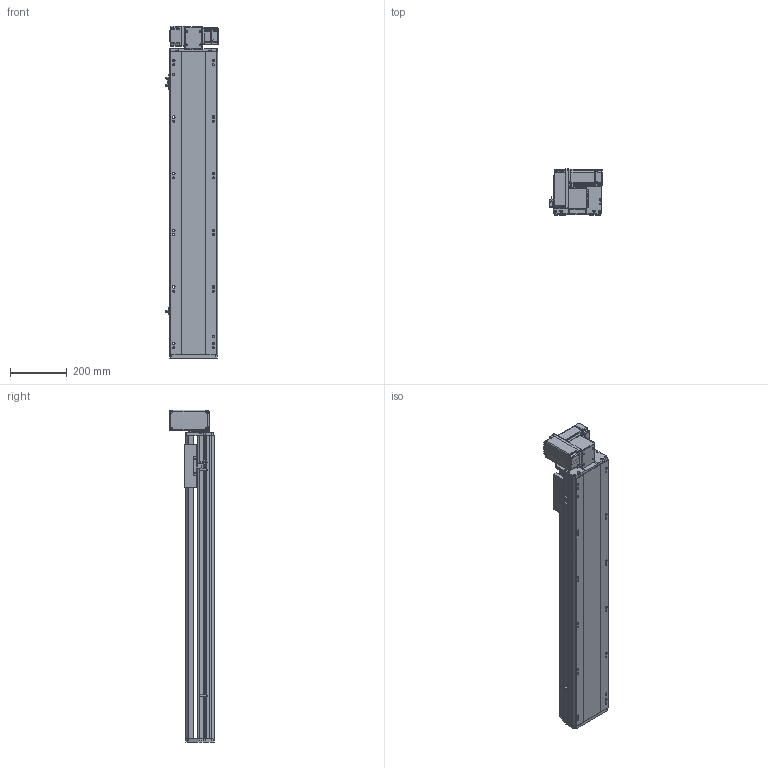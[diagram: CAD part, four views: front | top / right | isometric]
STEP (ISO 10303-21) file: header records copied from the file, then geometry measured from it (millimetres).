
FILE_DESCRIPTION (( 'STEP AP214' ), '1' );
FILE_NAME ('RTB17S-XX-800-LW-M40-C4.STEP', '2025-12-11T07:01:15', ( '' ), ( '' ), 'SwSTEP 2.0', 'SolidWorks 2018', '' );
FILE_SCHEMA (( 'AUTOMOTIVE_DESIGN' ));
Length unit declared in the file: millimetre
Products named in the file (14): 400W侜督萇儂^RTB17S-XX-XX-LW-M40-C4; RTB17S-L-001耜醱啣^RTB17S-XX-XX-LW-M40-C4; OMRON EE-SX672 传感器^RTB17S-XX-XX-LW-M40-C4; RTB17S-L-004佪裝蹟譫蟀諉釱^RTB17S-XX-XX-LW-M40-C4; RTB17S-XX-800-LW-M40-C4; RTB17S-LW-々湍釱蚾饜-400W^RTB17S-XX-XX-LW-M40-C4; RTB14-L-018P^RTB17S-LW-々湍釱蚾饜-400W_RTB17S-XX-XX-LW-M40-C4; RTB14-L-008-M20--萇儂啣^RTB17S-LW-々湍釱蚾饜-400W_RTB17S-XX-XX-LW-M40-C4; RTB14-L-017P^RTB17S-LW-々湍釱蚾饜-400W_RTB17S-XX-XX-LW-M40-C4; RTB14-L-005P--轴承塑胶压盖^RTB17S-LW-皮带座装配-400W_RTB17S-XX-XX-LW-M40-C4; RTB17S-L-014-T20--々湍釱^RTB17S-LW-々湍釱蚾饜-400W_RTB17S-XX-XX-LW-M40-C4; RTB17S-L-007奻裔^RTB17S-XX-XX-LW-M40-C4; RTH13-BL-012覜茼え俋离^RTB17S-XX-XX-LW-M40-C4; RTB17-R-011菁釱^RTB17S-XX-XX-LW-M40-C4
Assembly tree (16 placements, depth 3):
  RTB17S-XX-800-LW-M40-C4
    RTB17-R-011菁釱^RTB17S-XX-XX-LW-M40-C4
    RTB17S-L-007奻裔^RTB17S-XX-XX-LW-M40-C4
    OMRON EE-SX672 传感器^RTB17S-XX-XX-LW-M40-C4  x3
    RTB17S-L-001耜醱啣^RTB17S-XX-XX-LW-M40-C4
    400W侜督萇儂^RTB17S-XX-XX-LW-M40-C4
    RTB17S-L-004佪裝蹟譫蟀諉釱^RTB17S-XX-XX-LW-M40-C4
    RTH13-BL-012覜茼え俋离^RTB17S-XX-XX-LW-M40-C4
    RTB17S-LW-々湍釱蚾饜-400W^RTB17S-XX-XX-LW-M40-C4
      RTB17S-L-014-T20--々湍釱^RTB17S-LW-々湍釱蚾饜-400W_RTB17S-XX-XX-LW-M40-C4
      RTB14-L-005P--轴承塑胶压盖^RTB17S-LW-皮带座装配-400W_RTB17S-XX-XX-LW-M40-C4
      RTB14-L-008-M20--萇儂啣^RTB17S-LW-々湍釱蚾饜-400W_RTB17S-XX-XX-LW-M40-C4
      RTB14-L-017P^RTB17S-LW-々湍釱蚾饜-400W_RTB17S-XX-XX-LW-M40-C4  x2
      RTB14-L-018P^RTB17S-LW-々湍釱蚾饜-400W_RTB17S-XX-XX-LW-M40-C4
Bounding box: 186 x 160.5 x 1172.5 mm (x, y, z)
Volume: 10746006.8 mm3; surface area: 1319307.2 mm2
Topology: 15 solids, 15 shells, 2189 faces, 6033 edges, 3933 vertices
Faces by surface type: plane 1066, cylinder 675, bspline 301, cone 139, torus 8
Entity records: 61865 total; most frequent: CARTESIAN_POINT 17238, ORIENTED_EDGE 8910, DIRECTION 8306, EDGE_CURVE 4455, VERTEX_POINT 2921, AXIS2_PLACEMENT_3D 2851, VECTOR 2604, LINE 2604
